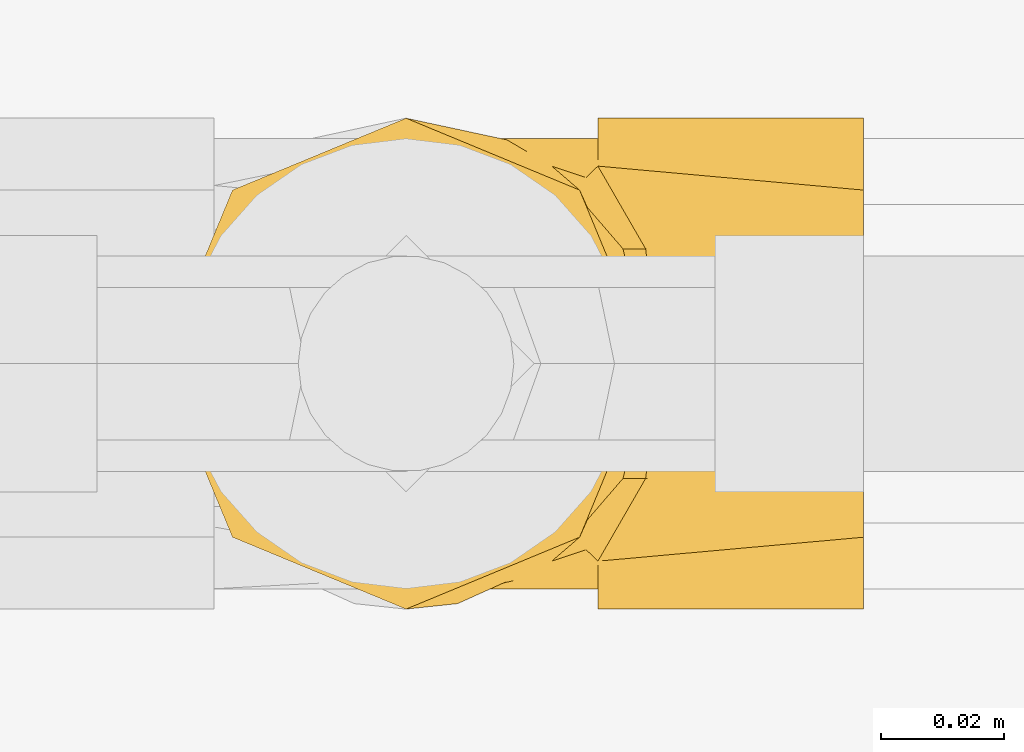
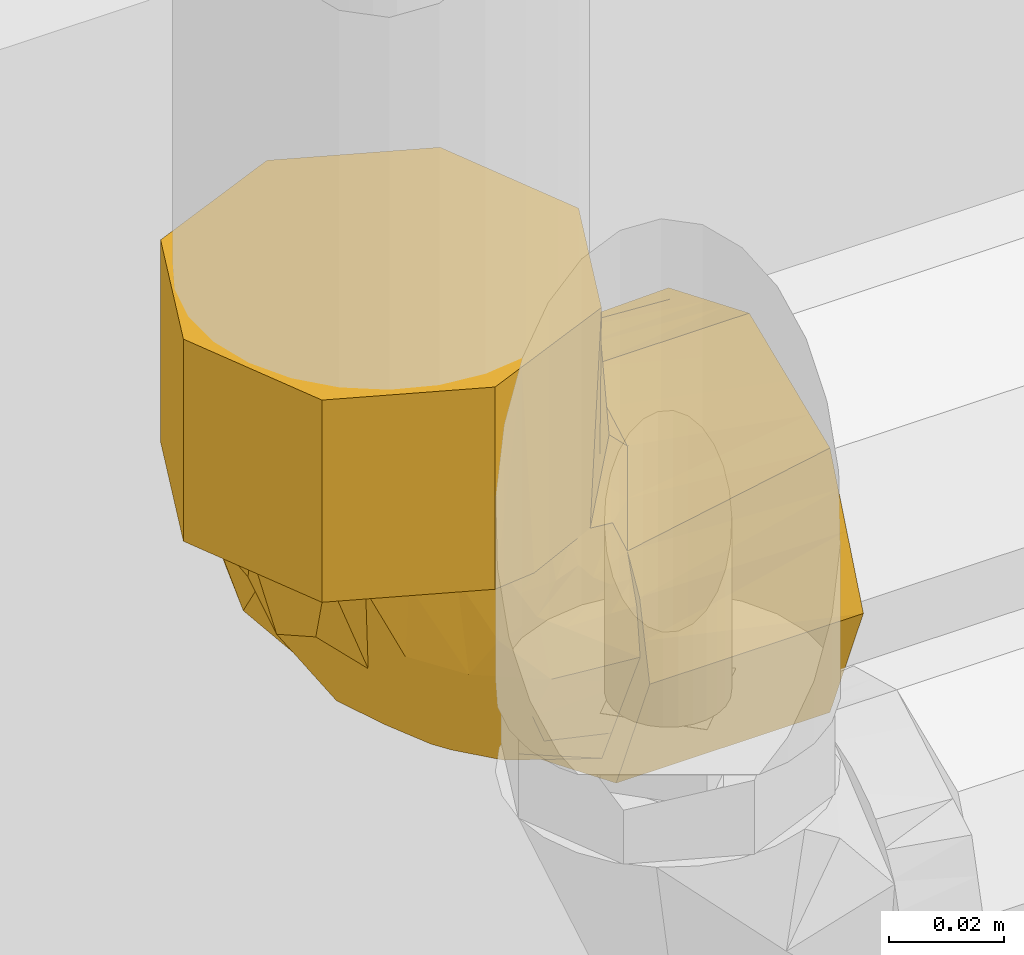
# One storey, part 156 of 652: 1 covering.
"""IFC2X3 building model written with IfcOpenShell, lengths in millimetres."""

from ifc_helpers import new_model, entity, si_unit, converted_unit, direction, frame, origin, place, context, subcontext, project, spatial, faceted_brep, material, type_object, element, save


model = new_model("IFC2X3")

# Units and contexts
model_context = context("Model", 3, precision=0.01, world=frame((0.0, 0.0, 308426.39999999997)), true_north=direction((6.123233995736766e-17, 1.0)))
plan_context = context("Plan", 3, precision=0.01, world=frame((0.0, 0.0, 308426.39999999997)), true_north=direction((6.123233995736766e-17, 1.0)))
body_context = subcontext(model_context, "Body", "Model", "MODEL_VIEW")
ifc_project = project(units=[si_unit("LENGTHUNIT", "METRE", prefix="MILLI"), si_unit("AREAUNIT", "SQUARE_METRE"), si_unit("VOLUMEUNIT", "CUBIC_METRE"), converted_unit("PLANEANGLEUNIT", "DEGREE", entity("IfcPlaneAngleMeasure", 0.017453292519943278), si_unit("PLANEANGLEUNIT", "RADIAN"), dimensions=[0, 0, 0, 0, 0, 0, 0])], contexts=[model_context, plan_context])

# Site, building, storey
site_placement = place(None, origin())
site = spatial("IfcSite", under=ifc_project, at=site_placement, Name="Default", CompositionType="ELEMENT")
building_placement = place(site_placement, origin())
building = spatial("IfcBuilding", under=site, at=building_placement, CompositionType="ELEMENT")
storey_placement = place(building_placement, frame((0.0, 0.0, 1730.6999999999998)))
storey = spatial("IfcBuildingStorey", under=building, at=storey_placement, Name="EG_Produktion_FFB", CompositionType="ELEMENT", Elevation=1730.6999999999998)

# Covering
ifc_material = material(Name="Dämmung - Armaflex-Schlauch")
covering_type = type_object("IfcCoveringType", Name="Rohrdämmung außen:Armaflex-Schlauch", PredefinedType="INSULATION")
covering_placement = place(storey_placement, frame((19428.64672776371, 61058.646727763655, 3974.084249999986)))
element("IfcCovering", 1, at=covering_placement, inside=storey, type_object=covering_type, material=ifc_material, Name="Rohrdämmung außen:Armaflex-Schlauch", ObjectType="Rohrdämmung außen:Armaflex-Schlauch", PredefinedType="INSULATION", context=body_context, shape_type="Brep", body=[
    faceted_brep([(55.293446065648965, 76.62300673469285, -43.00575000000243), (51.30566939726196, 77.08951820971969, -43.005750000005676), (45.09759303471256, 77.81577223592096, -43.00575000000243), (37.46172977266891, 74.37467999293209, -43.005750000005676), (29.82586651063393, 70.9335877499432, -43.005750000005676), (22.665040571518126, 67.7065704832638, -43.005750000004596), (15.504214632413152, 64.47955321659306, -43.00575000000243), (11.25323096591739, 52.916412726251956, -43.005750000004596), (7.002247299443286, 41.35327223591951, -43.00575000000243), (10.65162291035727, 34.139683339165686, -43.005750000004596), (14.300998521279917, 26.926094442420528, -43.00575000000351), (17.950374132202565, 19.712505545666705, -43.005750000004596), (21.599749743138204, 12.498916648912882, -43.00575000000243), (28.940491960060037, 10.12212716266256, -43.005750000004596), (37.01904249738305, 7.506449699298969, -43.005750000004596), (45.09759303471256, 4.890772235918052, -43.00575000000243), (51.30566939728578, 5.617026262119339, -43.005750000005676), (55.293446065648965, 6.083537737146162, -43.00575000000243), (60.12524249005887, 7.721836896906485, -43.005750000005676), (64.95703891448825, 9.36013605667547, -43.00575000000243), (57.339612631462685, 5.9231002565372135, -43.00575000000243), (49.72218634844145, 2.486064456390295, -43.00575000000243), (41.35327223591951, 1.5952722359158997, -43.00575000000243), (33.3575017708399, 4.907228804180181, -43.00575000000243), (27.296696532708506, 7.417696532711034, -43.00575000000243), (20.26840868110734, 10.3289086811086, -43.00575000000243), (13.240120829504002, 13.240120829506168, -43.00575000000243), (10.32890868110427, 20.26840868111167, -43.00575000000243), (7.417696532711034, 27.296696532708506, -43.00575000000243), (4.506484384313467, 34.32498438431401, -43.00575000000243), (1.5952722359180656, 41.35327223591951, -43.00575000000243), (4.907228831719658, 49.34904276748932, -43.00575000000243), (7.417696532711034, 55.40984793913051, -43.00575000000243), (10.32890868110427, 62.43813579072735, -43.00575000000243), (13.240120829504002, 69.46642364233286, -43.00575000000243), (20.26840868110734, 72.37763579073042, -43.00575000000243), (27.296696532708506, 75.28884793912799, -43.00575000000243), (33.35750303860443, 77.79931619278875, -43.00575000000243), (41.35327223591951, 81.11127223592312, -43.00575000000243), (49.529246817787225, 79.3520978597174, -43.00575000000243), (57.705221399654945, 77.59292348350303, -43.00575000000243), (64.95703891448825, 73.34640841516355, -43.00575000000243), (60.12524249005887, 74.98470757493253, -43.005750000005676), (69.46642364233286, 13.240120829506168, 0.0), (72.37763579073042, 20.268408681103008, 0.0), (75.28884793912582, 27.296696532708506, 0.0), (77.79931557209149, 33.35750154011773, 0.0), (81.11127223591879, 41.35327223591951, 0.0), (77.79931624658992, 49.34904130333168, 0.0), (75.28884793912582, 55.40984793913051, 0.0), (72.37763579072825, 62.43813579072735, 0.0), (69.46642364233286, 69.46642364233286, 0.0), (62.43813579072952, 72.37763579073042, 0.0), (55.40984793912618, 75.28884793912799, 0.0), (48.381560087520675, 78.20006008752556, 0.0), (41.35327223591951, 81.11127223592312, 0.0), (34.32498438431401, 78.20006008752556, 0.0), (27.296696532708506, 75.28884793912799, 0.0), (20.268408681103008, 72.37763579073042, 0.0), (13.240120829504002, 69.46642364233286, 0.0), (10.328908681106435, 62.43813579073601, 0.0), (7.417696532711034, 55.40984793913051, 0.0), (4.506484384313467, 48.38156008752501, 0.0), (1.5952722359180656, 41.35327223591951, 0.0), (4.506484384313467, 34.32498438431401, 0.0), (7.417696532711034, 27.296696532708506, 0.0), (10.328908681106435, 20.268408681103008, 0.0), (13.240120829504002, 13.240120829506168, 0.0), (25.361730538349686, 8.219185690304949, 0.0), (33.35750138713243, 4.907228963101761, 0.0), (41.35327223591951, 1.5952722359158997, 0.0), (48.381560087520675, 4.506484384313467, 0.0), (55.40984793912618, 7.417696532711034, 0.0), (62.43813579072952, 10.3289086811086, 0.0), (70.72483298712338, 16.057183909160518, -39.14313917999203), (81.11127223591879, 41.35327223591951, -32.88734533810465), (78.80194964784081, 32.053751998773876, -34.08393684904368), (76.49262705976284, 22.754231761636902, -35.28052835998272), (77.64728835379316, 27.40399188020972, -34.68223260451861), (70.72483298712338, 66.6493605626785, -39.14313917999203), (78.80194964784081, 50.65279247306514, -34.08393684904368), (76.49262705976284, 59.952312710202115, -35.28052835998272), (80.04136388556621, 45.661736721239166, -33.4417257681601), (72.4317722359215, 81.11127223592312, -74.0842500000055), (72.4317722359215, 77.7993156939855, -82.08002040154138), (72.4317722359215, 75.28884793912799, -88.14082570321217), (72.4317722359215, 72.37763579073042, -95.16911355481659), (72.4317722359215, 69.46642364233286, -102.19740140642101), (72.4317722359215, 62.43813579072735, -105.1086135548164), (72.4317722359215, 55.40984793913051, -108.01982570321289), (72.4317722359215, 49.34904137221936, -110.5302939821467), (72.4317722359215, 41.35327223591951, -113.84225000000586), (72.4317722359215, 33.357502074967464, -110.53029355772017), (72.4317722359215, 27.296696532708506, -108.01982570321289), (72.4317722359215, 20.268408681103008, -105.1086135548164), (72.4317722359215, 13.240120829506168, -102.19740140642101), (72.4317722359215, 10.3289086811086, -95.16911355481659), (72.4317722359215, 7.417696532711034, -88.14082570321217), (72.4317722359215, 4.506484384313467, -81.11253785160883), (72.4317722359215, 1.5952722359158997, -74.0842500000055), (72.4317722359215, 3.3544632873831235, -65.90823846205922), (72.4317722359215, 5.113654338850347, -57.73222692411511), (72.4317722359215, 9.36013605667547, -50.48048332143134), (72.43177223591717, 7.721836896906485, -55.31227974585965), (72.4317722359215, 6.083537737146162, -60.14407617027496), (72.43177223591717, 5.617026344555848, -64.13185213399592), (72.43177223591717, 5.253899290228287, -67.2358906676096), (72.4317722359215, 4.890772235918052, -70.33992920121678), (72.43177223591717, 8.224826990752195, -77.73827380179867), (72.43177223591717, 11.558881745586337, -85.13661840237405), (72.43177223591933, 14.892936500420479, -92.53496300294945), (72.4317722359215, 18.22699125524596, -99.93330760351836), (72.43177223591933, 24.00856150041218, -102.05879943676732), (72.43177223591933, 29.790131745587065, -104.18429127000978), (72.4317722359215, 41.35327223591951, -108.43527493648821), (72.43177223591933, 48.56686113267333, -104.78589932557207), (72.43177223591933, 55.78045002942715, -101.13652371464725), (72.43177223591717, 62.994038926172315, -97.4871481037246), (72.4317722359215, 70.2076278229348, -93.83777249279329), (72.43177223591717, 72.10966392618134, -87.96331166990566), (72.43177223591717, 74.01170002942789, -82.08885084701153), (72.4317722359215, 77.81577223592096, -70.33992920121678), (72.43177223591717, 77.45264518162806, -67.23589066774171), (72.43177223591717, 77.08951812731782, -64.13185213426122), (72.4317722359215, 76.62300673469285, -60.14407617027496), (72.43177223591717, 74.98470757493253, -55.31227974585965), (72.4317722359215, 73.34640841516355, -50.48048332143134), (72.4317722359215, 76.7834397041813, -58.097888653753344), (72.4317722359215, 80.22047099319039, -65.71529398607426), (115.43752223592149, 4.506484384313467, -81.11253785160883), (115.43752223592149, 7.417696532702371, -88.14082570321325), (115.43752223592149, 10.3289086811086, -95.1691135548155), (115.43752223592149, 13.240120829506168, -102.19740140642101), (115.43752223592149, 25.361730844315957, -107.21833667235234), (115.43752223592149, 33.35750154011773, -110.53029333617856), (115.43752223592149, 41.35327223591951, -113.84225000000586), (115.43752223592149, 48.38156008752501, -110.93103785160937), (115.43752223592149, 55.40984793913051, -108.01982570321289), (115.43752223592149, 62.43813579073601, -105.1086135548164), (115.43752223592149, 69.46642364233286, -102.19740140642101), (115.43752223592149, 72.37763579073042, -95.16911355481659), (115.43752223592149, 75.28884793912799, -88.14082570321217), (115.43752223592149, 78.20006008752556, -81.11253785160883), (115.43752223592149, 81.11127223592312, -74.0842500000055), (115.43752223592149, 78.20006008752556, -67.05596214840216), (115.43752223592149, 75.28884793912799, -60.02767429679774), (115.43752223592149, 72.37763579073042, -52.99938644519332), (115.43752223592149, 69.46642364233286, -45.97109859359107), (115.43752223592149, 62.43813579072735, -43.05988644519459), (115.43752223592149, 55.40984793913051, -40.148674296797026), (115.43752223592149, 49.34904309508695, -37.63820673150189), (115.43752223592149, 41.35327223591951, -34.32625000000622), (115.43752223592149, 33.357503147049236, -37.63820599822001), (115.43752223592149, 27.296696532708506, -40.148674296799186), (115.43752223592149, 20.268408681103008, -43.05988644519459), (115.43752223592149, 13.240120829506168, -45.97109859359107), (115.43752223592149, 10.3289086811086, -52.99938644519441), (115.43752223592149, 7.417696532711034, -60.02767429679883), (115.43752223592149, 4.907228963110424, -66.08847915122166), (115.43752223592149, 1.5952722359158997, -74.0842500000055), (82.55017689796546, 41.35327223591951, -34.32625000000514), (81.35358538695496, 32.05375199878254, -36.63557258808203), (80.15699387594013, 22.754231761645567, -38.94489517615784), (81.44141605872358, 32.736343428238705, -36.46606666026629), (76.29438305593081, 16.057183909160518, -44.71268924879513), (76.29438305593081, 66.6493605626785, -44.71268924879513), (81.35358538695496, 50.65279247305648, -36.63557258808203), (80.15699387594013, 59.95231271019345, -38.94489517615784), (81.44141605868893, 49.97020104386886, -36.46606666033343), (81.99579647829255, 45.66173663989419, -35.39615833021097), (57.27953829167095, 12.120840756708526, -87.24563107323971), (29.196562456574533, 11.864597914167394, -59.25537915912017), (39.99677644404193, 8.378054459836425, -64.78568226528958), (51.665813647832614, 4.890772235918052, -54.444618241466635), (44.4276439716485, 5.704430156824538, -57.53683977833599), (55.10574679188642, 5.818095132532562, -69.54060567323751), (40.74800020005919, 14.280504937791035, -78.61273076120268), (24.86974949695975, 17.28056825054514, -63.63300022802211), (37.515586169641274, 41.35327223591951, -91.69909945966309), (46.80229075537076, 33.2832979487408, -97.09379966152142), (27.559756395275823, 32.936990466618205, -80.92903244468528), (14.630582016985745, 41.35327223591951, -55.17908736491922), (14.918451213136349, 31.923106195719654, -61.71355754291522), (36.22638004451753, 20.52086951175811, -81.91063946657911), (70.04816151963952, 4.890772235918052, -68.51539346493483), (67.66455080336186, 4.890772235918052, -66.69085772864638), (62.89732937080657, 4.890772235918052, -63.04178625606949), (57.28157150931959, 4.890772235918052, -58.743202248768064), (54.94023827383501, 17.18561506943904, -92.24225345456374), (24.562664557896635, 23.49848008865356, -71.24210235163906), (17.335133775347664, 22.48243663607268, -57.409234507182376), (45.83903622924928, 24.51166214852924, -92.66510975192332), (33.94124595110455, 26.852776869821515, -84.60868936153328), (54.9736792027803, 41.35327223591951, -100.06718719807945), (56.13067021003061, 41.35327223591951, -100.621761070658), (22.258916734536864, 41.35327223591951, -67.35242472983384), (25.996342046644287, 41.35327223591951, -73.31662804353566), (29.887251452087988, 41.35327223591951, -79.52576209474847), (57.75457775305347, 26.95482375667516, -100.49812847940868), (53.08436589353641, 8.90939071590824, -78.6034631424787), (16.499294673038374, 41.35327223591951, -58.16118902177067), (48.11331321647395, 4.890772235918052, -48.25776996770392), (55.88980313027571, 5.540058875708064, -48.6114223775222), (61.14799943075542, 6.751916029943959, -47.904704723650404), (81.80380630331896, 41.35327223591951, -33.633715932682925), (63.97836606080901, 6.670824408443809, -51.459156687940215), (70.52863846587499, 11.210836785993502, -44.9088834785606), (67.53281820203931, 6.751916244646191, -54.28952252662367), (66.92088050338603, 5.555021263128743, -59.51870107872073), (55.88980313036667, 77.16648559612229, -48.61142237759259), (48.11331321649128, 77.81577223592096, -48.257769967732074), (70.52863882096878, 71.49570746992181, -44.908883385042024), (63.97836681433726, 76.03571971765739, -51.45915593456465), (61.147999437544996, 75.95462843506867, -47.90470469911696), (57.28157150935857, 77.81577223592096, -58.7432022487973), (67.53281822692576, 75.95462822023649, -54.28952251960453), (66.92088050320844, 77.15152320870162, -59.51870107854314), (67.66455080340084, 77.81577223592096, -66.69085772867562), (51.665813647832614, 77.81577223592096, -54.444618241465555), (70.04816151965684, 77.81577223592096, -68.51539346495), (62.897329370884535, 77.81577223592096, -63.04178625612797), (37.548677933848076, 74.80598737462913, -59.611862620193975), (29.753616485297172, 71.5622524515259, -58.14792793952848), (58.23539538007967, 75.79919171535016, -76.41301603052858), (30.21968406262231, 50.8847120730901, -83.37405497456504), (38.437885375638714, 65.94296495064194, -79.87091005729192), (47.15067212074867, 73.58946657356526, -74.4438185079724), (50.851200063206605, 68.10768824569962, -86.90253298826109), (50.713049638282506, 76.81449307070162, -66.09863101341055), (42.39813250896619, 76.81985109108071, -55.988582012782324), (29.78207227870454, 67.36791849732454, -67.81026209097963), (39.60413641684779, 60.18508487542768, -86.64625364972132), (49.78456672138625, 51.08904624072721, -98.35278997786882), (54.98610161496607, 60.01109950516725, -96.79734628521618), (58.13081411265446, 73.08709853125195, -83.3350649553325), (19.78481804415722, 58.13792656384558, -64.8027936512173), (29.10701456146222, 61.63866824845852, -74.76137203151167), (21.41890155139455, 65.97235995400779, -55.99524376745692), (18.40551201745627, 49.62375736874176, -68.64794002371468)], [[[0, 1, 2, 3, 4, 5, 6, 7, 8, 9, 10, 11, 12, 13, 14, 15, 16, 17, 18, 19, 20, 21, 22, 23, 24, 25, 26, 27, 28, 29, 30, 31, 32, 33, 34, 35, 36, 37, 38, 39, 40, 41, 42]], [[43, 44, 45, 46, 47, 48, 49, 50, 51, 52, 53, 54, 55, 56, 57, 58, 59, 60, 61, 62, 63, 64, 65, 66, 67, 68, 69, 70, 71, 72, 73]], [[44, 43, 74]], [[75, 47, 46]], [[76, 75, 46]], [[45, 77, 78, 76]], [[44, 74, 77]], [[72, 20, 73]], [[71, 21, 72]], [[43, 19, 74]], [[77, 45, 44]], [[72, 21, 20]], [[71, 22, 21]], [[45, 76, 46]], [[71, 70, 22]], [[73, 20, 19]], [[19, 43, 73]], [[23, 22, 70, 69, 68, 67, 26, 25, 24]], [[26, 67, 66, 65, 64, 63, 30, 29, 28, 27]], [[38, 37, 36, 35, 34, 59, 58, 57, 56, 55]], [[30, 63, 62, 61, 60, 59, 34, 33, 32, 31]], [[53, 40, 39]], [[50, 79, 51]], [[39, 54, 53]], [[41, 52, 51]], [[40, 52, 41]], [[80, 49, 48]], [[49, 80, 81]], [[55, 54, 38]], [[48, 75, 82, 80]], [[38, 54, 39]], [[79, 50, 81]], [[52, 40, 53]], [[48, 47, 75]], [[50, 49, 81]], [[79, 41, 51]], [[83, 84, 85, 86, 87, 88, 89, 90, 91, 92, 93, 94, 95, 96, 97, 98, 99, 100, 101, 102, 103, 104, 105, 106, 107, 108, 109, 110, 111, 112, 113, 114, 115, 116, 117, 118, 119, 120, 121, 122, 123, 124, 125, 126, 127, 128]], [[129, 130, 131, 132, 133, 134, 135, 136, 137, 138, 139, 140, 141, 142, 143, 144, 145, 146, 147, 148, 149, 150, 151, 152, 153, 154, 155, 156, 157, 158, 159]], [[135, 134, 133, 132, 95, 94, 93, 92, 91]], [[95, 132, 131, 130, 129, 159, 99, 98, 97, 96]], [[159, 158, 157, 100]], [[101, 156, 102]], [[99, 159, 100]], [[101, 100, 157]], [[152, 151, 160]], [[102, 156, 155]], [[153, 161, 162]], [[161, 153, 152]], [[152, 160, 163, 161]], [[154, 164, 155]], [[164, 154, 162]], [[156, 101, 157]], [[154, 153, 162]], [[164, 102, 155]], [[148, 147, 165]], [[149, 166, 150]], [[166, 149, 167]], [[160, 151, 150]], [[148, 165, 167]], [[145, 127, 146]], [[144, 128, 145]], [[147, 126, 165]], [[167, 149, 148]], [[145, 128, 127]], [[144, 83, 128]], [[150, 166, 168, 169, 160]], [[144, 143, 83]], [[146, 127, 126]], [[126, 147, 146]], [[91, 90, 89, 88, 87, 139, 138, 137, 136, 135]], [[141, 140, 139, 87, 86, 85, 84, 83, 143, 142]], [[109, 170, 110]], [[13, 171, 172]], [[14, 13, 172]], [[173, 174, 175]], [[176, 171, 177]], [[15, 14, 174]], [[178, 179, 180]], [[9, 181, 182]], [[172, 175, 174]], [[13, 12, 171]], [[12, 11, 177]], [[176, 177, 183]], [[175, 107, 184, 185, 186, 187, 173]], [[188, 170, 176]], [[176, 172, 171]], [[189, 190, 182]], [[11, 10, 190]], [[177, 11, 190]], [[170, 188, 110]], [[191, 183, 192]], [[179, 178, 193, 194]], [[182, 190, 10]], [[182, 195, 180]], [[177, 190, 189]], [[182, 10, 9]], [[180, 195, 196, 197, 178]], [[177, 189, 183]], [[177, 171, 12]], [[113, 179, 194]], [[189, 182, 180]], [[112, 111, 198, 113]], [[198, 111, 188]], [[194, 114, 113]], [[179, 191, 192]], [[199, 175, 172]], [[199, 108, 175]], [[172, 176, 199]], [[188, 111, 110]], [[199, 170, 109]], [[183, 188, 176]], [[108, 199, 109]], [[188, 191, 198]], [[108, 107, 175]], [[176, 170, 199]], [[192, 189, 180]], [[188, 183, 191]], [[189, 192, 183]], [[179, 192, 180]], [[181, 9, 8]], [[182, 181, 200, 195]], [[191, 179, 198]], [[179, 113, 198]], [[174, 173, 201, 15]], [[172, 174, 14]], [[173, 202, 201]], [[173, 187, 203]], [[18, 203, 19]], [[201, 17, 16, 15]], [[204, 76, 163]], [[74, 164, 162, 77]], [[163, 76, 78]], [[78, 77, 162, 161]], [[205, 102, 206]], [[206, 164, 74]], [[106, 105, 104, 185, 184, 107]], [[205, 207, 102]], [[186, 185, 208, 187]], [[204, 75, 76]], [[163, 160, 204]], [[205, 206, 19]], [[164, 206, 102]], [[203, 205, 19]], [[19, 206, 74]], [[201, 202, 17]], [[17, 202, 18]], [[203, 202, 173]], [[18, 202, 203]], [[102, 207, 103]], [[103, 208, 104]], [[207, 205, 187]], [[208, 103, 207]], [[208, 185, 104]], [[187, 208, 207]], [[203, 187, 205]], [[204, 160, 169]], [[209, 210, 0]], [[169, 168, 166, 167, 81, 80, 82]], [[41, 211, 212]], [[1, 0, 210, 2]], [[213, 212, 214]], [[204, 169, 82]], [[79, 165, 211]], [[126, 125, 215]], [[212, 211, 126]], [[204, 82, 75]], [[167, 165, 79, 81]], [[216, 124, 217]], [[218, 209, 213]], [[122, 121, 219, 217, 124, 123]], [[41, 79, 211]], [[211, 165, 126]], [[209, 0, 42]], [[125, 124, 216]], [[126, 215, 212]], [[125, 216, 215]], [[220, 214, 216, 217]], [[213, 42, 41]], [[212, 213, 41]], [[210, 209, 218]], [[214, 212, 215]], [[209, 42, 213]], [[215, 216, 214]], [[218, 213, 214]], [[4, 221, 222]], [[223, 121, 120]], [[224, 178, 197, 196]], [[225, 226, 227]], [[228, 226, 221]], [[229, 218, 228]], [[222, 226, 230]], [[231, 232, 224]], [[3, 229, 221]], [[233, 232, 231]], [[234, 223, 120]], [[229, 2, 210, 218]], [[224, 235, 236]], [[4, 3, 221]], [[228, 218, 214, 220, 217, 219, 121]], [[237, 222, 230]], [[6, 235, 7]], [[235, 6, 237]], [[238, 200, 7]], [[228, 223, 226]], [[224, 238, 235]], [[234, 226, 223]], [[227, 117, 233]], [[193, 232, 115]], [[224, 232, 178]], [[115, 114, 194, 193]], [[235, 237, 236]], [[238, 224, 196]], [[226, 222, 221]], [[222, 237, 5]], [[5, 237, 6]], [[5, 4, 222]], [[237, 230, 236]], [[7, 200, 181, 8]], [[7, 235, 238]], [[238, 196, 195, 200]], [[227, 118, 117]], [[193, 178, 232]], [[231, 236, 225]], [[233, 117, 116]], [[232, 233, 116]], [[227, 233, 231]], [[229, 3, 2]], [[228, 221, 229]], [[121, 223, 228]], [[119, 118, 234, 120]], [[234, 118, 227]], [[227, 226, 234]], [[232, 116, 115]], [[225, 236, 230]], [[224, 236, 231]], [[226, 225, 230]], [[231, 225, 227]], [[78, 161, 163]]]),
])

save(model, "model.ifc")
